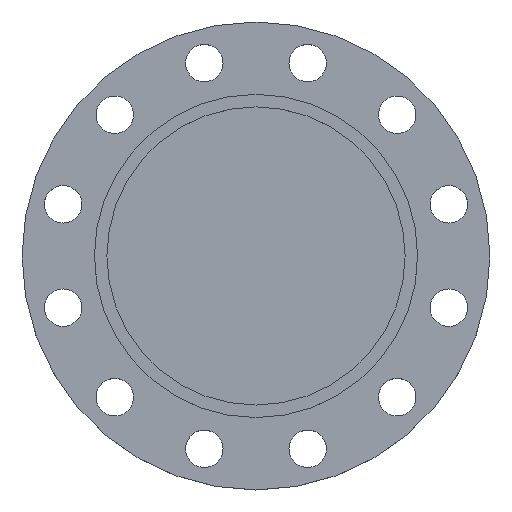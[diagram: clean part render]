
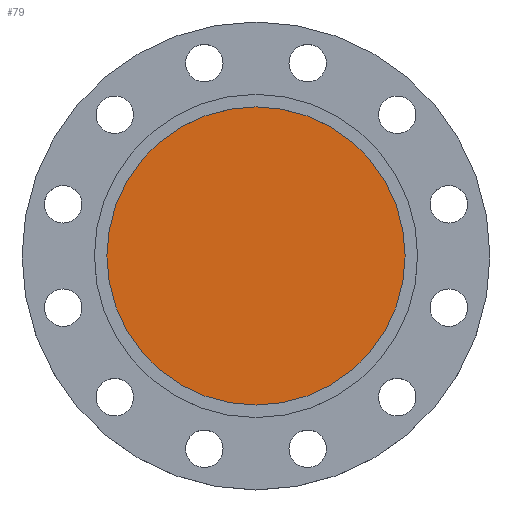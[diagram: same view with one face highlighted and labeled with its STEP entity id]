
A CAD part, top view. The second image highlights one B-rep face of the part: STEP entity #79.
In plain terms, the highlighted planar face has unit normal (0, 0, 1).
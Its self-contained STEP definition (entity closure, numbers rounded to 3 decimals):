
#61 = DIRECTION ( 'NONE',  ( -1., 0., 0. ) ) ;
#62 = DIRECTION ( 'NONE',  ( 0., 0., -1. ) ) ;
#65 = CARTESIAN_POINT ( 'NONE',  ( 0., 0., -5. ) ) ;
#79 = ADVANCED_FACE ( 'NONE', ( #799 ), #795, .T. ) ;
#117 = AXIS2_PLACEMENT_3D ( 'NONE', #798, #784, #800 ) ;
#198 = AXIS2_PLACEMENT_3D ( 'NONE', #505, #502, #501 ) ;
#275 = CARTESIAN_POINT ( 'NONE',  ( -119.5, 0., -5. ) ) ;
#498 = CIRCLE ( 'NONE', #500, 119.5 ) ;
#500 = AXIS2_PLACEMENT_3D ( 'NONE', #65, #62, #61 ) ;
#501 = DIRECTION ( 'NONE',  ( -1., 0., 0. ) ) ;
#502 = DIRECTION ( 'NONE',  ( 0., 0., -1. ) ) ;
#505 = CARTESIAN_POINT ( 'NONE',  ( 0., 0., -5. ) ) ;
#585 = CARTESIAN_POINT ( 'NONE',  ( 119.5, 0., -5. ) ) ;
#711 = VERTEX_POINT ( 'NONE', #585 ) ;
#784 = DIRECTION ( 'NONE',  ( 0., 0., 1. ) ) ;
#795 = PLANE ( 'NONE',  #117 ) ;
#798 = CARTESIAN_POINT ( 'NONE',  ( 119.5, 0., -5. ) ) ;
#799 = FACE_OUTER_BOUND ( 'NONE', #1100, .T. ) ;
#800 = DIRECTION ( 'NONE',  ( 1., 0., 0. ) ) ;
#858 = CIRCLE ( 'NONE', #198, 119.5 ) ;
#864 = EDGE_CURVE ( 'NONE', #1105, #711, #858, .T. ) ;
#919 = ORIENTED_EDGE ( 'NONE', *, *, #864, .F. ) ;
#920 = ORIENTED_EDGE ( 'NONE', *, *, #1257, .F. ) ;
#1100 = EDGE_LOOP ( 'NONE', ( #919, #920 ) ) ;
#1105 = VERTEX_POINT ( 'NONE', #275 ) ;
#1257 = EDGE_CURVE ( 'NONE', #711, #1105, #498, .T. ) ;
